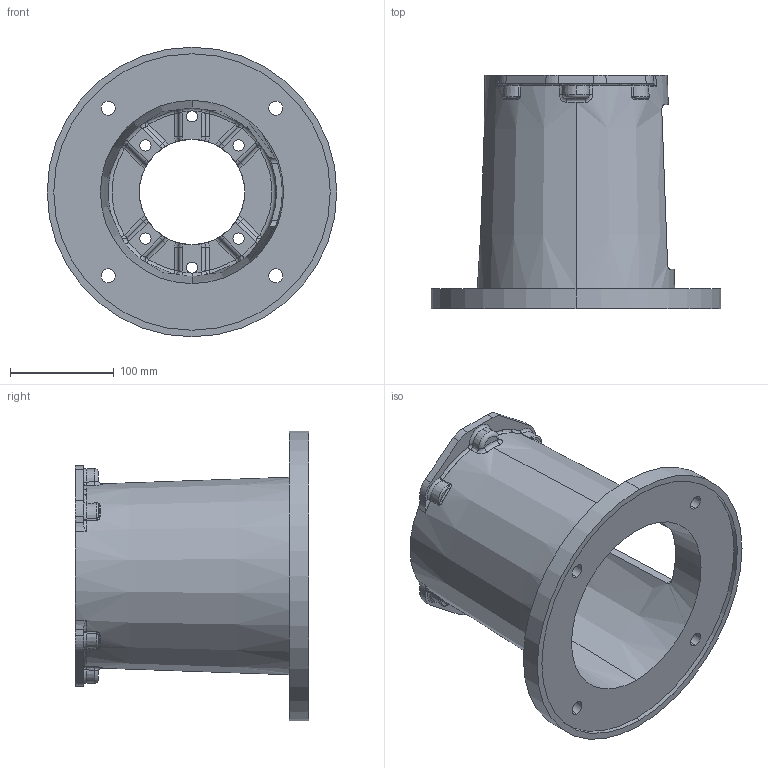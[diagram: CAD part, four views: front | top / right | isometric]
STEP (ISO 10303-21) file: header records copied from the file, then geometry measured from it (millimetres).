
FILE_DESCRIPTION (( 'STEP AP203' ), '1' );
FILE_NAME ('M284862B.STEP', '2007-12-21T21:02:35', ( 'Chris McCoy' ), ( 'Magnaloy Coupling Co' ), 'SwSTEP 2.0', 'SolidWorks 2007', '' );
FILE_SCHEMA (( 'CONFIG_CONTROL_DESIGN' ));
Length unit declared in the file: inch
Products named in the file (1): M284862B
Bounding box: 279.4 x 225.3 x 279.4 mm (x, y, z)
Volume: 1522250.7 mm3; surface area: 353700.6 mm2
Topology: 1 solids, 1 shells, 354 faces, 907 edges, 535 vertices
Faces by surface type: torus 106, cylinder 86, bspline 64, plane 50, sphere 24, cone 24
Entity records: 14627 total; most frequent: CARTESIAN_POINT 6465, ORIENTED_EDGE 1774, DIRECTION 1688, EDGE_CURVE 887, AXIS2_PLACEMENT_3D 764, VERTEX_POINT 535, CIRCLE 473, EDGE_LOOP 378
